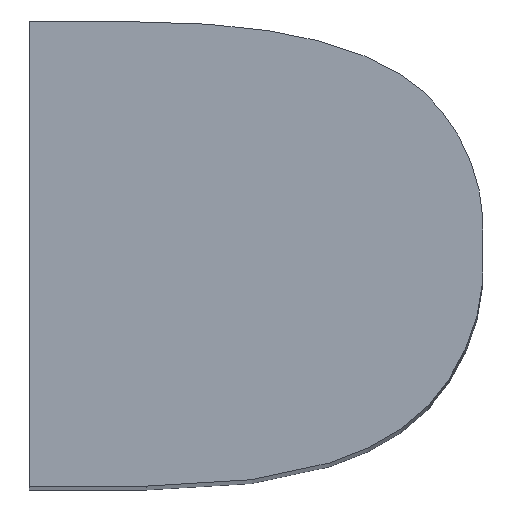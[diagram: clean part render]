
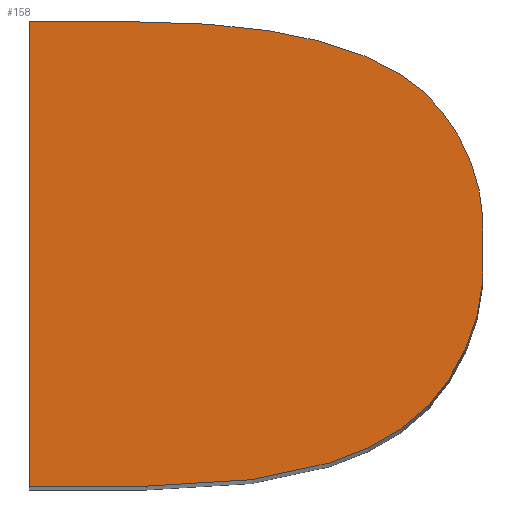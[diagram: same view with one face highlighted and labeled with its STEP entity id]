
A CAD part, top view. The second image highlights one B-rep face of the part: STEP entity #158.
In plain terms, the highlighted planar face has unit normal (0, 0, 1).
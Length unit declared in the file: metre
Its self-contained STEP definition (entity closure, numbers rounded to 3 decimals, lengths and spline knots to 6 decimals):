
#18=CIRCLE('',#179,0.000126);
#19=CIRCLE('',#181,0.000138);
#22=B_SPLINE_CURVE_WITH_KNOTS('',2,(#262,#263,#264),.UNSPECIFIED.,.F.,.F.,(3,3),(0.,1.),.PIECEWISE_BEZIER_KNOTS.);
#23=B_SPLINE_CURVE_WITH_KNOTS('',2,(#283,#284,#285),.UNSPECIFIED.,.F.,.F.,(3,3),(0.,1.),.PIECEWISE_BEZIER_KNOTS.);
#59=ORIENTED_EDGE('',*,*,#76,.T.);
#60=ORIENTED_EDGE('',*,*,#74,.T.);
#61=ORIENTED_EDGE('',*,*,#86,.T.);
#62=ORIENTED_EDGE('',*,*,#84,.T.);
#63=ORIENTED_EDGE('',*,*,#82,.T.);
#64=ORIENTED_EDGE('',*,*,#80,.T.);
#65=ORIENTED_EDGE('',*,*,#78,.T.);
#74=EDGE_CURVE('',#95,#94,#105,.T.);
#76=EDGE_CURVE('',#96,#95,#107,.T.);
#78=EDGE_CURVE('',#97,#96,#109,.T.);
#80=EDGE_CURVE('',#98,#97,#22,.T.);
#82=EDGE_CURVE('',#99,#98,#18,.T.);
#84=EDGE_CURVE('',#100,#99,#19,.T.);
#86=EDGE_CURVE('',#94,#100,#23,.T.);
#94=VERTEX_POINT('',#242);
#95=VERTEX_POINT('',#244);
#96=VERTEX_POINT('',#248);
#97=VERTEX_POINT('',#252);
#98=VERTEX_POINT('',#265);
#99=VERTEX_POINT('',#269);
#100=VERTEX_POINT('',#273);
#105=LINE('',#243,#118);
#107=LINE('',#247,#120);
#109=LINE('',#251,#122);
#118=VECTOR('',#197,1.);
#120=VECTOR('',#201,1.);
#122=VECTOR('',#205,1.);
#135=EDGE_LOOP('',(#59,#60,#61,#62,#63,#64,#65));
#144=FACE_BOUND('',#135,.T.);
#149=PLANE('',#182);
#158=ADVANCED_FACE('',(#144),#149,.T.);
#179=AXIS2_PLACEMENT_3D('',#268,#210,#211);
#181=AXIS2_PLACEMENT_3D('',#272,#215,#216);
#182=AXIS2_PLACEMENT_3D('',#286,#218,#219);
#197=DIRECTION('',(1.,0.,0.));
#201=DIRECTION('',(0.,-1.,0.));
#205=DIRECTION('',(-1.,0.,0.));
#210=DIRECTION('',(0.,0.,1.));
#211=DIRECTION('',(1.,0.,0.));
#215=DIRECTION('',(0.,0.,1.));
#216=DIRECTION('',(1.,0.,0.));
#218=DIRECTION('',(0.,0.,1.));
#219=DIRECTION('',(1.,0.,0.));
#242=CARTESIAN_POINT('',(0.016454,0.063037,0.0015));
#243=CARTESIAN_POINT('',(0.016414,0.063037,0.0015));
#244=CARTESIAN_POINT('',(0.016375,0.063037,0.0015));
#247=CARTESIAN_POINT('',(0.016375,0.063193,0.0015));
#248=CARTESIAN_POINT('',(0.016375,0.063349,0.0015));
#251=CARTESIAN_POINT('',(0.016412,0.063349,0.0015));
#252=CARTESIAN_POINT('',(0.016449,0.063349,0.0015));
#262=CARTESIAN_POINT('',(0.016624,0.063314,0.0015));
#263=CARTESIAN_POINT('',(0.016567,0.063349,0.0015));
#264=CARTESIAN_POINT('',(0.016449,0.063349,0.0015));
#265=CARTESIAN_POINT('',(0.016624,0.063314,0.0015));
#268=CARTESIAN_POINT('',(0.016553,0.06321,0.0015));
#269=CARTESIAN_POINT('',(0.01668,0.063198,0.0015));
#272=CARTESIAN_POINT('',(0.016542,0.063186,0.0015));
#273=CARTESIAN_POINT('',(0.016625,0.063076,0.0015));
#283=CARTESIAN_POINT('',(0.016454,0.063037,0.0015));
#284=CARTESIAN_POINT('',(0.01657,0.063037,0.0015));
#285=CARTESIAN_POINT('',(0.016625,0.063076,0.0015));
#286=CARTESIAN_POINT('',(-0.014086,0.020475,0.0015));
